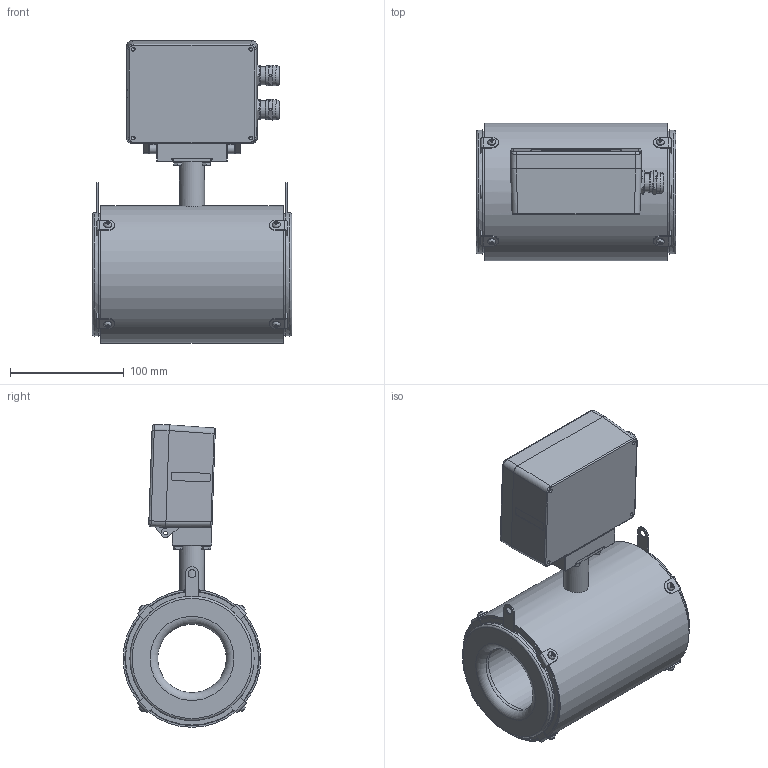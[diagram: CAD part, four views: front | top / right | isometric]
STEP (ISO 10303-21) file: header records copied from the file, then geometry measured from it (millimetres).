
FILE_DESCRIPTION(('STEP AP203'), '1');
FILE_NAME('Âçëåò ÝÌ ÏÐÎÔÈ DN65 Ñýíäâè÷', '', ('UNSPECIFIED'), ('UNSPECIFIED'), 'C3D Converter', 'C3D Toolkit', '');
FILE_SCHEMA(('CONFIG_CONTROL_DESIGN'));
Length unit declared in the file: millimetre
Products named in the file (1): ШКСД.407212.004-002-06
Bounding box: 175 x 121 x 265.77 mm (x, y, z)
Surface area: 364256.3 mm2
Topology: 2 solids, 11 shells, 1082 faces, 2607 edges, 1634 vertices
Faces by surface type: plane 586, cylinder 291, cone 91, bspline 68, torus 38, sphere 8
Full cylindrical faces by diameter (mm): 3.242 x18, 3.422 x2, 4 x14, 4.134 x1, 4.5 x10, 4.917 x2, 5 x8, 6 x4, 6.2 x2, 7 x10, 7.5 x4, 8.7 x2, 12 x4, 15 x4, 16 x8, 16.3 x2, 17.5 x4, 19 x1, 20.2 x1, 22 x1, 26 x2, 61 x1, 68 x2, 70 x2, 75 x1, 76 x1, 80 x2, 107 x2, 109 x2, 115 x2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
Entity records: 56778 total; most frequent: CARTESIAN_POINT 24099, DIRECTION 4837, ORIENTED_EDGE 4710, EDGE_CURVE 2361, AXIS2_PLACEMENT_3D 1831, VERTEX_POINT 1615, EDGE_LOOP 1450, LINE 1175
